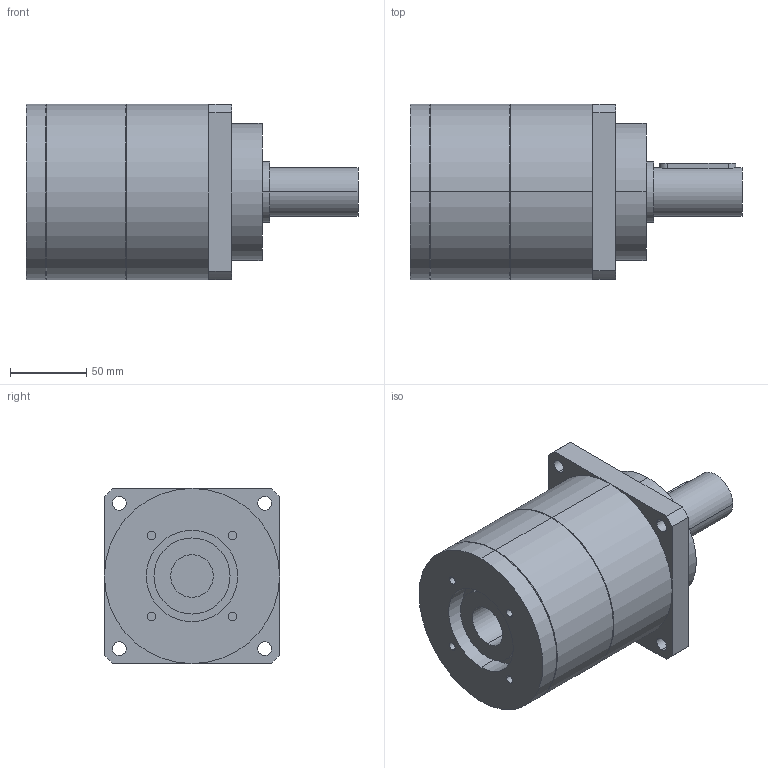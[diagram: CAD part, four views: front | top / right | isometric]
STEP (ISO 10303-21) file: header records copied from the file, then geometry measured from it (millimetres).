
FILE_DESCRIPTION(('CoCreate Modeling STEP Export'),'2;1');
FILE_NAME('GPT120_ig-3-4-5-7-10_32_B5A_28_P02.stp','2015-02-04T17:00:30',(''),(''),'CoCreate Modeling STEP processor for AP214 (Solid Model)','CoCreate Modeling 16.00C 25-Feb-2009 (C) Parametric Technology GmbH','');
FILE_SCHEMA(('AUTOMOTIVE_DESIGN { 1 0 10303 214 1 1 1 1 }'));
Length unit declared in the file: millimetre
Products named in the file (2): GPT120_ig-3-4-5-7-10_32_B5A_28_P02
Assembly tree (1 placements, depth 2):
  GPT120_ig-3-4-5-7-10_32_B5A_28_P02
    GPT120_ig-3-4-5-7-10_32_B5A_28_P02
Bounding box: 218 x 115 x 115 mm (x, y, z)
Volume: 1560282.4 mm3; surface area: 100881.9 mm2
Topology: 1 solids, 1 shells, 72 faces, 180 edges, 123 vertices
Faces by surface type: cylinder 42, plane 26, cone 4
Entity records: 2290 total; most frequent: CARTESIAN_POINT 710, ORIENTED_EDGE 360, DIRECTION 270, EDGE_CURVE 180, VERTEX_POINT 123, AXIS2_PLACEMENT_3D 101, EDGE_LOOP 93, FACE_OUTER_BOUND 72
